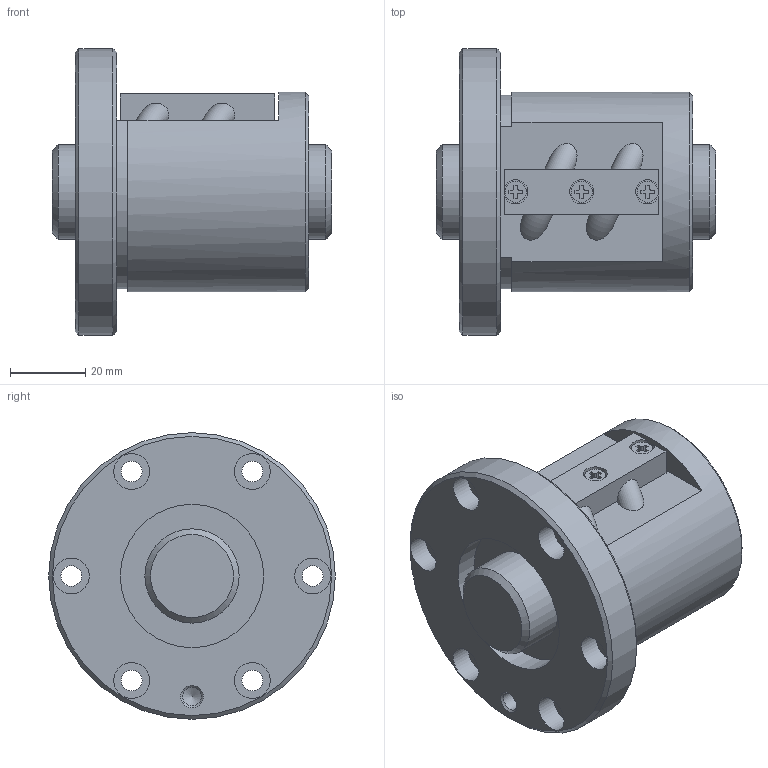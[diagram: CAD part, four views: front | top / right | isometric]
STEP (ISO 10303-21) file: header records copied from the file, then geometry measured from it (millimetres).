
FILE_DESCRIPTION(/* description */ ('STEP AP203'),/* implementation_level */ '2;1');
FILE_NAME(/* name */ 'SBN2506V-5G0+74LC0(0000)',/* time_stamp */ '2024-05-28T10:24:39+02:00',/* author */ ('License CC BY-ND 4.0'),/* organization */ ('CADENAS'),/* preprocessor_version */ 'ST-DEVELOPER v19.3',/* originating_system */ 'PARTsolutions',/* authorisation */ ' ');
FILE_SCHEMA (('CONFIG_CONTROL_DESIGN'));
Length unit declared in the file: millimetre
Products named in the file (3): SBN2506V-5G0+74LC0(0000); N010SBN2506V-50Shaft; N00SBN2506V-5Nut
Assembly tree (2 placements, depth 2):
  SBN2506V-5G0+74LC0(0000)
    N010SBN2506V-50Shaft
    N00SBN2506V-5Nut
Bounding box: 74 x 76 x 76 mm (x, y, z)
Volume: 152014.3 mm3; surface area: 33707.9 mm2
Topology: 2 solids, 2 shells, 121 faces, 285 edges, 188 vertices
Faces by surface type: plane 69, cylinder 41, cone 7, torus 4
Full cylindrical faces by diameter (mm): 4.8 x3, 4.917 x1, 5.5 x6, 5.6 x3, 6.4 x1, 9.5 x6, 25 x2, 38 x2, 53 x1, 76 x1
Entity records: 3467 total; most frequent: CARTESIAN_POINT 647, DIRECTION 578, ORIENTED_EDGE 498, EDGE_CURVE 249, AXIS2_PLACEMENT_3D 213, FACE_BOUND 189, EDGE_LOOP 188, VERTEX_POINT 186
